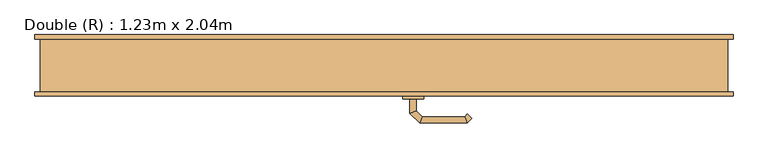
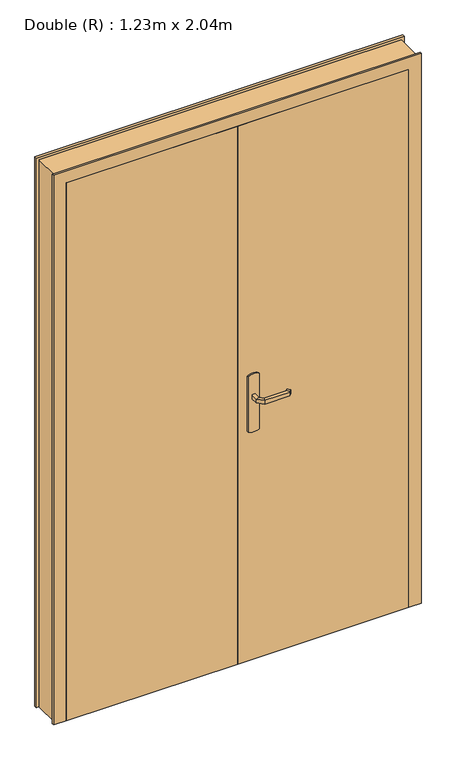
"""IFC4 building model written with IfcOpenShell, lengths in millimetres: door geometry, Double (R) : 1.23m x 2.04m."""

from ifc_helpers import new_model, si_unit, point, frame, frame_2d, origin, origin_with_axes, place, context, project, spatial, polyline, circle_curve, ellipse_curve, trimmed, segment, composite_curve, outline, extrude, faceted_brep, source, transform, mapped, element, save
from ifc_brep_helpers import plane_surface, cylinder_surface, advanced_brep


def double_r_1_23m_x_2_04m_7282032c(model_context):
    return source(origin(), model_context, "Body", "SolidModel", [
        advanced_brep(
        [(61.0, -13.0, 993.0), (61.0, -13.0, 1007.0), (49.0, -13.0, 1007.0), (49.0, -13.0, 993.0), (61.0, 9.4852045, 993.0), (61.0, 9.4852045, 1007.0), (49.0, 14.4557673, 1007.0), (49.0, 14.4557673, 993.0), (72.4852814, 20.9704859, 993.0), (72.4852814, 20.9704859, 1007.0), (67.5147186, 32.9704859, 1007.0), (67.5147186, 32.9704859, 993.0), (152.5605023, 20.9704859, 993.0), (152.5605023, 20.9704859, 1007.0), (157.531065, 32.9704859, 1007.0), (157.531065, 32.9704859, 993.0), (157.8742108, 15.6567774, 993.0), (166.3594922, 24.1420588, 993.0), (166.3594922, 24.1420588, 1007.0), (157.8742108, 15.6567774, 1007.0)],
        [
            (0, 1),
            (1, 2, circle_curve(frame((55.0, -13.0, 986.9542278), z_axis=(0.0, -1.0, 0.0), x_axis=(-1.0, 0.0, 0.0)), 20.9244589)),
            (2, 3),
            (3, 0, circle_curve(frame((55.0, -13.0, 1013.0457722), z_axis=(0.0, -1.0, 0.0), x_axis=(-1.0, 0.0, 0.0)), 20.9244589)),
            (0, 4),
            (4, 5),
            (5, 1),
            (5, 6, ellipse_curve(frame((55.0, 11.9704859, 986.9542278), z_axis=(-0.38268343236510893, -0.9238795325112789, 0.0), x_axis=(0.9238795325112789, -0.3826834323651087, 0.0)), 22.6484711, 20.9244589)),
            (6, 2),
            (6, 7),
            (7, 3),
            (7, 4, ellipse_curve(frame((55.0, 11.9704859, 1013.0457722), z_axis=(-0.38268343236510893, -0.9238795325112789, 0.0), x_axis=(0.9238795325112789, -0.3826834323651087, 0.0)), 22.6484711, 20.9244589)),
            (4, 8),
            (8, 9),
            (9, 5),
            (9, 10, ellipse_curve(frame((70.0, 26.9704859, 986.9542278), z_axis=(-0.9238795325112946, -0.38268343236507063, 0.0), x_axis=(0.3826834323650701, -0.9238795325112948, 0.0)), 22.6484711, 20.9244589)),
            (10, 6),
            (10, 11),
            (11, 7),
            (11, 8, ellipse_curve(frame((70.0, 26.9704859, 1013.0457722), z_axis=(-0.9238795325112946, -0.38268343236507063, 0.0), x_axis=(0.3826834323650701, -0.9238795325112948, 0.0)), 22.6484711, 20.9244589)),
            (8, 12),
            (12, 13),
            (13, 9),
            (13, 14, ellipse_curve(frame((155.0457837, 26.9704859, 986.9542278), z_axis=(-0.9238795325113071, 0.38268343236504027, 0.0), x_axis=(-0.38268343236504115, -0.9238795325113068, 0.0)), 22.6484711, 20.9244589)),
            (14, 10),
            (14, 15),
            (15, 11),
            (15, 12, ellipse_curve(frame((155.0457837, 26.9704859, 1013.0457722), z_axis=(-0.9238795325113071, 0.38268343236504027, 0.0), x_axis=(-0.38268343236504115, -0.9238795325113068, 0.0)), 22.6484711, 20.9244589)),
            (16, 17, circle_curve(frame((162.1168515, 19.8994181, 1013.0457722), z_axis=(0.7071067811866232, -0.7071067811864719, 0.0), x_axis=(0.7071067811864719, 0.7071067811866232, 0.0)), 20.9244589)),
            (17, 18),
            (18, 19, circle_curve(frame((162.1168515, 19.8994181, 986.9542278), z_axis=(0.7071067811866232, -0.7071067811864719, 0.0), x_axis=(0.7071067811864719, 0.7071067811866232, 0.0)), 20.9244589)),
            (19, 16),
            (12, 16),
            (19, 13),
            (18, 14),
            (17, 15),
        ],
        [
            plane_surface(frame((45.7804555, -13.0, 1000.0), z_axis=(0.0, -1.0, 0.0), x_axis=(0.0, 0.0, 1.0))),
            plane_surface(frame((61.0, -13.0, 993.0), z_axis=(1.0, 0.0, 0.0), x_axis=(0.0, 1.0, 0.0))),
            cylinder_surface(frame((55.0, -13.0, 986.9542278), z_axis=(0.0, -1.0, 0.0), x_axis=(-1.0, 0.0, 0.0)), 20.9244589),
            plane_surface(frame((49.0, -13.0, 1007.0), z_axis=(-1.0, 0.0, 0.0), x_axis=(0.0, 1.0, 0.0))),
            cylinder_surface(frame((55.0, -13.0, 1013.0457722), z_axis=(0.0, -1.0, 0.0), x_axis=(-1.0, 0.0, 0.0)), 20.9244589),
            plane_surface(frame((61.0, 9.4852045, 993.0), z_axis=(0.707106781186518, -0.707106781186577, 0.0), x_axis=(0.707106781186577, 0.707106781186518, 0.0))),
            cylinder_surface(frame((55.0, 11.9704859, 986.9542278), z_axis=(-0.7071067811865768, -0.7071067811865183, 0.0), x_axis=(-0.7071067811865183, 0.7071067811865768, 0.0)), 20.9244589),
            plane_surface(frame((49.0, 14.4557673, 1007.0), z_axis=(-0.7071067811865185, 0.7071067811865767, 0.0), x_axis=(0.7071067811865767, 0.7071067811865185, 0.0))),
            cylinder_surface(frame((55.0, 11.9704859, 1013.0457722), z_axis=(-0.7071067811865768, -0.7071067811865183, 0.0), x_axis=(-0.7071067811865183, 0.7071067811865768, 0.0)), 20.9244589),
            plane_surface(frame((72.4852814, 20.9704859, 993.0), z_axis=(0.0, -1.0, 0.0), x_axis=(1.0, 0.0, 0.0))),
            cylinder_surface(frame((70.0, 26.9704859, 986.9542278), z_axis=(-1.0, 0.0, 0.0), x_axis=(0.0, 1.0, 0.0)), 20.9244589),
            plane_surface(frame((67.5147186, 32.9704859, 1007.0), z_axis=(0.0, 1.0, 0.0), x_axis=(1.0, 0.0, 0.0))),
            cylinder_surface(frame((70.0, 26.9704859, 1013.0457722), z_axis=(-1.0, 0.0, 0.0), x_axis=(0.0, 1.0, 0.0)), 20.9244589),
            plane_surface(frame((162.1168515, 19.8994181, 990.7804555), z_axis=(0.7071067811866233, -0.7071067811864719, 0.0), x_axis=(0.7071067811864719, 0.7071067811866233, 0.0))),
            plane_surface(frame((152.5605023, 20.9704859, 993.0), z_axis=(-0.707106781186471, -0.7071067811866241, 0.0), x_axis=(0.7071067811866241, -0.707106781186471, 0.0))),
            cylinder_surface(frame((155.0457837, 26.9704859, 986.9542278), z_axis=(-0.7071067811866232, 0.7071067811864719, 0.0), x_axis=(0.7071067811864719, 0.7071067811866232, 0.0)), 20.9244589),
            plane_surface(frame((157.531065, 32.9704859, 1007.0), z_axis=(0.7071067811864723, 0.7071067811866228, 0.0), x_axis=(0.7071067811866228, -0.7071067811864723, 0.0))),
            cylinder_surface(frame((155.0457837, 26.9704859, 1013.0457722), z_axis=(-0.7071067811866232, 0.7071067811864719, 0.0), x_axis=(0.7071067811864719, 0.7071067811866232, 0.0)), 20.9244589),
        ],
        [
            (0, [[1, 2, 3, 4]]),
            (1, [[-1, 5, 6, 7]]),
            (2, [[-2, -7, 8, 9]]),
            (3, [[-3, -9, 10, 11]]),
            (4, [[-4, -11, 12, -5]]),
            (5, [[-6, 13, 14, 15]]),
            (6, [[-8, -15, 16, 17]]),
            (7, [[-10, -17, 18, 19]]),
            (8, [[-12, -19, 20, -13]]),
            (9, [[-14, 21, 22, 23]]),
            (10, [[-16, -23, 24, 25]]),
            (11, [[-18, -25, 26, 27]]),
            (12, [[-20, -27, 28, -21]]),
            (13, [[29, 30, 31, 32]]),
            (14, [[-22, 33, -32, 34]]),
            (15, [[-24, -34, -31, 35]]),
            (16, [[-26, -35, -30, 36]]),
            (17, [[-28, -36, -29, -33]]),
        ],
    ),
        advanced_brep(
        [(49.0, -63.0, 1007.0), (61.0, -63.0, 1007.0), (61.0, -63.0, 993.0), (49.0, -63.0, 993.0), (49.0, -90.6509507, 1007.0), (61.0, -85.680388, 1007.0), (61.0, -85.680388, 993.0), (49.0, -90.6509507, 993.0), (67.37721, -109.0281607, 1007.0), (72.3477727, -97.0281607, 1007.0), (72.3477727, -97.0281607, 993.0), (67.37721, -109.0281607, 993.0), (157.503922, -109.0281607, 1007.0), (152.5333592, -97.0281607, 1007.0), (152.5333592, -97.0281607, 993.0), (157.503922, -109.0281607, 993.0), (166.3323491, -100.1997336, 1007.0), (166.3323491, -100.1997336, 993.0), (157.8470677, -91.7144522, 993.0), (157.8470677, -91.7144522, 1007.0)],
        [
            (0, 1, circle_curve(frame((55.0, -63.0, 986.9542278), z_axis=(0.0, 1.0, 0.0), x_axis=(1.0, 0.0, 0.0)), 20.9244589)),
            (1, 2),
            (2, 3, circle_curve(frame((55.0, -63.0, 1013.0457722), z_axis=(0.0, 1.0, 0.0), x_axis=(1.0, 0.0, 0.0)), 20.9244589)),
            (3, 0),
            (0, 4),
            (4, 5, ellipse_curve(frame((55.0, -88.1656693, 986.9542278), z_axis=(-0.3826834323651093, 0.9238795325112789, 0.0), x_axis=(0.9238795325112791, 0.38268343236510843, 0.0)), 22.6484711, 20.9244589)),
            (5, 1),
            (5, 6),
            (6, 2),
            (6, 7, ellipse_curve(frame((55.0, -88.1656693, 1013.0457722), z_axis=(-0.3826834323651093, 0.9238795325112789, 0.0), x_axis=(0.9238795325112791, 0.38268343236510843, 0.0)), 22.6484711, 20.9244589)),
            (7, 3),
            (7, 4),
            (4, 8),
            (8, 9, ellipse_curve(frame((69.8624914, -103.0281607, 986.9542278), z_axis=(-0.9238795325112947, 0.38268343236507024, 0.0), x_axis=(0.3826834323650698, 0.9238795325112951, 0.0)), 22.6484711, 20.9244589)),
            (9, 5),
            (9, 10),
            (10, 6),
            (10, 11, ellipse_curve(frame((69.8624914, -103.0281607, 1013.0457722), z_axis=(-0.9238795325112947, 0.38268343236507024, 0.0), x_axis=(0.3826834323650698, 0.9238795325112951, 0.0)), 22.6484711, 20.9244589)),
            (11, 7),
            (11, 8),
            (8, 12),
            (12, 13, ellipse_curve(frame((155.0186406, -103.0281607, 986.9542278), z_axis=(-0.9238795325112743, -0.3826834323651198, 0.0), x_axis=(-0.38268343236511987, 0.9238795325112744, 0.0)), 22.6484711, 20.9244589)),
            (13, 9),
            (13, 14),
            (14, 10),
            (14, 15, ellipse_curve(frame((155.0186406, -103.0281607, 1013.0457722), z_axis=(-0.9238795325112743, -0.3826834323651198, 0.0), x_axis=(-0.38268343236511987, 0.9238795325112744, 0.0)), 22.6484711, 20.9244589)),
            (15, 11),
            (15, 12),
            (16, 17),
            (17, 18, circle_curve(frame((162.0897084, -95.9570929, 1013.0457722), z_axis=(0.7071067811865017, 0.7071067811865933, 0.0), x_axis=(-0.7071067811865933, 0.7071067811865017, 0.0)), 20.9244589)),
            (18, 19),
            (19, 16, circle_curve(frame((162.0897084, -95.9570929, 986.9542278), z_axis=(0.7071067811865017, 0.7071067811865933, 0.0), x_axis=(-0.7071067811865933, 0.7071067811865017, 0.0)), 20.9244589)),
            (12, 16),
            (19, 13),
            (18, 14),
            (17, 15),
        ],
        [
            plane_surface(frame((45.7804555, -63.0, 1000.0), z_axis=(0.0, 1.0, 0.0), x_axis=(0.0, 0.0, -1.0))),
            cylinder_surface(frame((55.0, -63.0, 986.9542278), z_axis=(0.0, 1.0, 0.0), x_axis=(1.0, 0.0, 0.0)), 20.9244589),
            plane_surface(frame((61.0, -63.0, 1007.0), z_axis=(1.0, 0.0, 0.0), x_axis=(0.0, -1.0, 0.0))),
            cylinder_surface(frame((55.0, -63.0, 1013.0457722), z_axis=(0.0, 1.0, 0.0), x_axis=(1.0, 0.0, 0.0)), 20.9244589),
            plane_surface(frame((49.0, -63.0, 993.0), z_axis=(-1.0, 0.0, 0.0), x_axis=(0.0, -1.0, 0.0))),
            cylinder_surface(frame((55.0, -88.1656693, 986.9542278), z_axis=(-0.7071067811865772, 0.7071067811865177, 0.0), x_axis=(0.7071067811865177, 0.7071067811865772, 0.0)), 20.9244589),
            plane_surface(frame((61.0, -85.680388, 1007.0), z_axis=(0.7071067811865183, 0.7071067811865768, 0.0), x_axis=(0.7071067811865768, -0.7071067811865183, 0.0))),
            cylinder_surface(frame((55.0, -88.1656693, 1013.0457722), z_axis=(-0.7071067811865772, 0.7071067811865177, 0.0), x_axis=(0.7071067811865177, 0.7071067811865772, 0.0)), 20.9244589),
            plane_surface(frame((49.0, -90.6509507, 993.0), z_axis=(-0.707106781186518, -0.707106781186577, 0.0), x_axis=(0.707106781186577, -0.707106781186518, 0.0))),
            cylinder_surface(frame((69.8624914, -103.0281607, 986.9542278), z_axis=(-1.0, 0.0, 0.0), x_axis=(0.0, 1.0, 0.0)), 20.9244589),
            plane_surface(frame((72.3477727, -97.0281607, 1007.0), z_axis=(0.0, 1.0, 0.0), x_axis=(1.0, 0.0, 0.0))),
            cylinder_surface(frame((69.8624914, -103.0281607, 1013.0457722), z_axis=(-1.0, 0.0, 0.0), x_axis=(0.0, 1.0, 0.0)), 20.9244589),
            plane_surface(frame((67.37721, -109.0281607, 993.0), z_axis=(0.0, -1.0, 0.0), x_axis=(1.0, 0.0, 0.0))),
            plane_surface(frame((162.0897084, -95.9570929, 1009.2195445), z_axis=(0.7071067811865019, 0.7071067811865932, 0.0), x_axis=(0.7071067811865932, -0.7071067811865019, 0.0))),
            cylinder_surface(frame((155.0186406, -103.0281607, 986.9542278), z_axis=(-0.7071067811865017, -0.7071067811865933, 0.0), x_axis=(-0.7071067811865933, 0.7071067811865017, 0.0)), 20.9244589),
            plane_surface(frame((152.5333592, -97.0281607, 1007.0), z_axis=(-0.7071067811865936, 0.7071067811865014, 0.0), x_axis=(0.7071067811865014, 0.7071067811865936, 0.0))),
            cylinder_surface(frame((155.0186406, -103.0281607, 1013.0457722), z_axis=(-0.7071067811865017, -0.7071067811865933, 0.0), x_axis=(-0.7071067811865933, 0.7071067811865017, 0.0)), 20.9244589),
            plane_surface(frame((157.503922, -109.0281607, 993.0), z_axis=(0.707106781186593, -0.7071067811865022, 0.0), x_axis=(0.7071067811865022, 0.707106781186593, 0.0))),
        ],
        [
            (0, [[1, 2, 3, 4]]),
            (1, [[-1, 5, 6, 7]]),
            (2, [[-2, -7, 8, 9]]),
            (3, [[-3, -9, 10, 11]]),
            (4, [[-4, -11, 12, -5]]),
            (5, [[-6, 13, 14, 15]]),
            (6, [[-8, -15, 16, 17]]),
            (7, [[-10, -17, 18, 19]]),
            (8, [[-12, -19, 20, -13]]),
            (9, [[-14, 21, 22, 23]]),
            (10, [[-16, -23, 24, 25]]),
            (11, [[-18, -25, 26, 27]]),
            (12, [[-20, -27, 28, -21]]),
            (13, [[29, 30, 31, 32]]),
            (14, [[-22, 33, -32, 34]]),
            (15, [[-24, -34, -31, 35]]),
            (16, [[-26, -35, -30, 36]]),
            (17, [[-28, -36, -29, -33]]),
        ],
    ),
        extrude(outline(composite_curve([segment(trimmed(circle_curve(frame_2d((1045.3589838, 55.0)), 40.0), [point((1080.0, 75.0))], [point((1080.0, 35.0))], False, "CARTESIAN"), True, "CONTINUOUS"), segment(polyline([(1080.0, 35.0), (870.0, 35.0)]), True, "CONTINUOUS"), segment(trimmed(circle_curve(frame_2d((904.6410162, 55.0)), 40.0), [point((870.0, 35.0))], [point((870.0, 75.0))], False, "CARTESIAN"), True, "CONTINUOUS"), segment(polyline([(870.0, 75.0), (1080.0, 75.0)]), True, "CONTINUOUS")], self_intersect=False)), frame((0.0, -18.0, 0.0), z_axis=(0.0, 1.0, 0.0), x_axis=(0.0, 0.0, 1.0)), (0.0, 0.0, 1.0), 5.0),
        extrude(outline(composite_curve([segment(trimmed(circle_curve(frame_2d((904.6410162, 55.0)), 40.0), [point((870.0, 35.0))], [point((870.0, 75.0))], False, "CARTESIAN"), True, "CONTINUOUS"), segment(polyline([(870.0, 75.0), (1080.0, 75.0)]), True, "CONTINUOUS"), segment(trimmed(circle_curve(frame_2d((1045.3589838, 55.0)), 40.0), [point((1080.0, 75.0))], [point((1080.0, 35.0))], False, "CARTESIAN"), True, "CONTINUOUS"), segment(polyline([(1080.0, 35.0), (870.0, 35.0)]), True, "CONTINUOUS")], self_intersect=False)), frame((0.0, -63.0, 0.0), z_axis=(0.0, 1.0, 0.0), x_axis=(0.0, 0.0, 1.0)), (0.0, 0.0, 1.0), 5.0),
        faceted_brep([(-650.0, -50.0, 0.0), (-650.0, 50.0, 0.0), (-660.0, 50.0, 0.0), (-660.0, 58.0, 0.0), (-600.0, 58.0, 0.0), (-600.0, -18.0, 0.0), (-615.0, -18.0, 0.0), (-615.0, -58.0, 0.0), (-660.0, -58.0, 0.0), (-660.0, -50.0, 0.0), (-650.0, -50.0, 2075.0), (-650.0, 50.0, 2075.0), (650.0, 50.0, 2075.0), (650.0, 50.0, 0.0), (660.0, 50.0, 0.0), (660.0, 50.0, 2085.0), (-660.0, 50.0, 2085.0), (-660.0, 58.0, 2085.0), (660.0, 58.0, 2085.0), (660.0, 58.0, 0.0), (600.0, 58.0, 0.0), (600.0, 58.0, 2025.0), (-600.0, 58.0, 2025.0), (-600.0, -18.0, 2025.0), (600.0, -18.0, 2025.0), (600.0, -18.0, 0.0), (615.0, -18.0, 0.0), (615.0, -18.0, 2040.0), (-615.0, -18.0, 2040.0), (-615.0, -58.0, 2040.0), (615.0, -58.0, 2040.0), (615.0, -58.0, 0.0), (660.0, -58.0, 0.0), (660.0, -58.0, 2085.0), (-660.0, -58.0, 2085.0), (-660.0, -50.0, 2085.0), (660.0, -50.0, 2085.0), (660.0, -50.0, 0.0), (650.0, -50.0, 0.0), (650.0, -50.0, 2075.0)], [[[0, 1, 2, 3, 4, 5, 6, 7, 8, 9]], [[1, 0, 10, 11]], [[2, 1, 11, 12, 13, 14, 15, 16]], [[3, 2, 16, 17]], [[4, 3, 17, 18, 19, 20, 21, 22]], [[5, 4, 22, 23]], [[6, 5, 23, 24, 25, 26, 27, 28]], [[7, 6, 28, 29]], [[8, 7, 29, 30, 31, 32, 33, 34]], [[9, 8, 34, 35]], [[0, 9, 35, 36, 37, 38, 39, 10]], [[12, 39, 38, 13]], [[38, 37, 32, 31, 26, 25, 20, 19, 14, 13]], [[18, 15, 14, 19]], [[24, 21, 20, 25]], [[30, 27, 26, 31]], [[36, 33, 32, 37]], [[11, 10, 39, 12]], [[17, 16, 15, 18]], [[23, 22, 21, 24]], [[29, 28, 27, 30]], [[35, 34, 33, 36]]]),
        extrude(outline(polyline([(615.0, -58.0), (0.0, -58.0), (0.0, -18.0), (615.0, -18.0), (615.0, -58.0)])), origin_with_axes(), (0.0, 0.0, 1.0), 2040.0),
        extrude(outline(polyline([(0.0, -58.0), (-615.0, -58.0), (-615.0, -18.0), (0.0, -18.0), (0.0, -58.0)])), origin_with_axes(), (0.0, 0.0, 1.0), 2040.0),
    ])


if __name__ == "__main__":
    model = new_model("IFC4")
    model_context = context("Model", 3, world=origin())
    ifc_project = project(units=[si_unit("LENGTHUNIT", "METRE", prefix="MILLI")], contexts=[model_context])
    site = spatial("IfcSite", under=ifc_project)
    building = spatial("IfcBuilding", under=site)
    placement = place(None, origin())
    double_r_1_23m_x_2_04m_shape = double_r_1_23m_x_2_04m_7282032c(model_context)
    element("IfcDoor", 1, ObjectType="Double (R) : 1.23m x 2.04m", at=placement, inside=building, context=model_context, shape_type="MappedRepresentation", body=[
        mapped(double_r_1_23m_x_2_04m_shape, transform((0.0, 0.0, 0.0), x_axis=(1.0, 0.0, 0.0), y_axis=(0.0, 1.0, 0.0), z_axis=(0.0, 0.0, 1.0))),
    ])
    save(model, "model.ifc")
